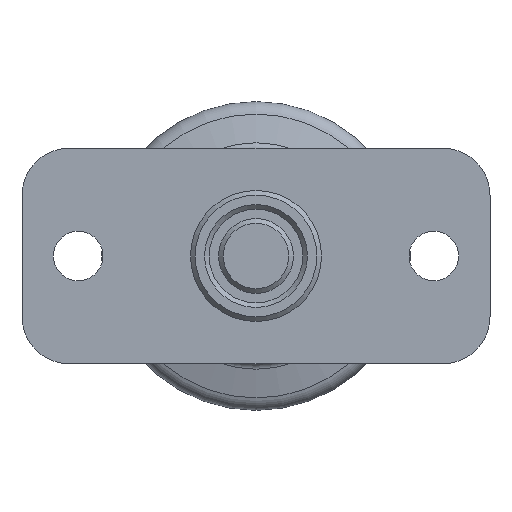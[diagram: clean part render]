
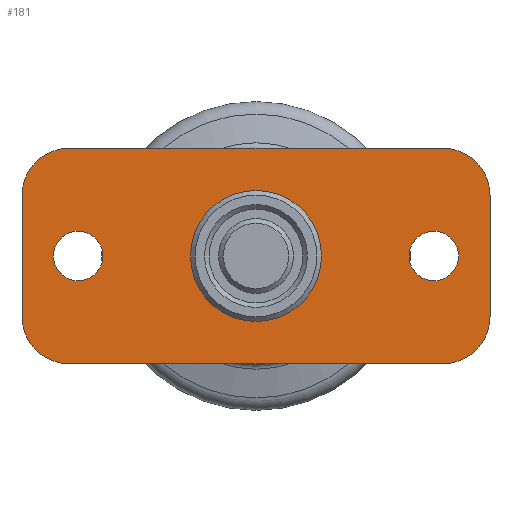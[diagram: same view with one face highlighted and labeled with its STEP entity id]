
A CAD part, front view. The second image highlights one B-rep face of the part: STEP entity #181.
In plain terms, the highlighted planar face has unit normal (0, -1, 0).
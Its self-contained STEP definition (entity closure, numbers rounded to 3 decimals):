
#181 = ADVANCED_FACE( '', ( #281, #282, #283, #284 ), #285, .F. );
#281 = FACE_BOUND( '', #481, .T. );
#282 = FACE_BOUND( '', #482, .T. );
#283 = FACE_BOUND( '', #483, .T. );
#284 = FACE_OUTER_BOUND( '', #484, .T. );
#285 = PLANE( '', #485 );
#481 = EDGE_LOOP( '', ( #737 ) );
#482 = EDGE_LOOP( '', ( #738 ) );
#483 = EDGE_LOOP( '', ( #739 ) );
#484 = EDGE_LOOP( '', ( #740, #741, #742, #743, #744, #745, #746, #747 ) );
#485 = AXIS2_PLACEMENT_3D( '', #748, #749, #750 );
#737 = ORIENTED_EDGE( '', *, *, #1252, .F. );
#738 = ORIENTED_EDGE( '', *, *, #1253, .F. );
#739 = ORIENTED_EDGE( '', *, *, #1254, .F. );
#740 = ORIENTED_EDGE( '', *, *, #1255, .F. );
#741 = ORIENTED_EDGE( '', *, *, #1256, .F. );
#742 = ORIENTED_EDGE( '', *, *, #1257, .F. );
#743 = ORIENTED_EDGE( '', *, *, #1258, .F. );
#744 = ORIENTED_EDGE( '', *, *, #1259, .F. );
#745 = ORIENTED_EDGE( '', *, *, #1260, .F. );
#746 = ORIENTED_EDGE( '', *, *, #1261, .F. );
#747 = ORIENTED_EDGE( '', *, *, #1262, .F. );
#748 = CARTESIAN_POINT( '', ( -20., 0., 6.5 ) );
#749 = DIRECTION( '', ( 0., 1., 0. ) );
#750 = DIRECTION( '', ( 0., 0., 1. ) );
#1252 = EDGE_CURVE( '', #1438, #1438, #1439, .T. );
#1253 = EDGE_CURVE( '', #1440, #1440, #1441, .T. );
#1254 = EDGE_CURVE( '', #1442, #1442, #1443, .T. );
#1255 = EDGE_CURVE( '', #1444, #1445, #1446, .T. );
#1256 = EDGE_CURVE( '', #1447, #1444, #1448, .T. );
#1257 = EDGE_CURVE( '', #1449, #1447, #1450, .T. );
#1258 = EDGE_CURVE( '', #1451, #1449, #1452, .T. );
#1259 = EDGE_CURVE( '', #1453, #1451, #1454, .T. );
#1260 = EDGE_CURVE( '', #1455, #1453, #1456, .T. );
#1261 = EDGE_CURVE( '', #1457, #1455, #1458, .T. );
#1262 = EDGE_CURVE( '', #1445, #1457, #1459, .T. );
#1438 = VERTEX_POINT( '', #1774 );
#1439 = CIRCLE( '', #1775, 2.65 );
#1440 = VERTEX_POINT( '', #1776 );
#1441 = CIRCLE( '', #1777, 2.65 );
#1442 = VERTEX_POINT( '', #1778 );
#1443 = CIRCLE( '', #1779, 7. );
#1444 = VERTEX_POINT( '', #1780 );
#1445 = VERTEX_POINT( '', #1781 );
#1446 = LINE( '', #1782, #1783 );
#1447 = VERTEX_POINT( '', #1784 );
#1448 = CIRCLE( '', #1785, 5. );
#1449 = VERTEX_POINT( '', #1786 );
#1450 = LINE( '', #1787, #1788 );
#1451 = VERTEX_POINT( '', #1789 );
#1452 = CIRCLE( '', #1790, 5. );
#1453 = VERTEX_POINT( '', #1791 );
#1454 = LINE( '', #1792, #1793 );
#1455 = VERTEX_POINT( '', #1794 );
#1456 = CIRCLE( '', #1795, 5. );
#1457 = VERTEX_POINT( '', #1796 );
#1458 = LINE( '', #1797, #1798 );
#1459 = CIRCLE( '', #1799, 5. );
#1774 = CARTESIAN_POINT( '', ( 19., 0., -2.65 ) );
#1775 = AXIS2_PLACEMENT_3D( '', #2224, #2225, #2226 );
#1776 = CARTESIAN_POINT( '', ( -19., 0., -2.65 ) );
#1777 = AXIS2_PLACEMENT_3D( '', #2227, #2228, #2229 );
#1778 = CARTESIAN_POINT( '', ( 0., 0., -7. ) );
#1779 = AXIS2_PLACEMENT_3D( '', #2230, #2231, #2232 );
#1780 = CARTESIAN_POINT( '', ( -25., 0., -6.5 ) );
#1781 = CARTESIAN_POINT( '', ( -25., 0., 6.5 ) );
#1782 = CARTESIAN_POINT( '', ( -25., 0., -6.5 ) );
#1783 = VECTOR( '', #2233, 1000. );
#1784 = CARTESIAN_POINT( '', ( -20., 0., -11.5 ) );
#1785 = AXIS2_PLACEMENT_3D( '', #2234, #2235, #2236 );
#1786 = CARTESIAN_POINT( '', ( 20., 0., -11.5 ) );
#1787 = CARTESIAN_POINT( '', ( 20., 0., -11.5 ) );
#1788 = VECTOR( '', #2237, 1000. );
#1789 = CARTESIAN_POINT( '', ( 25., 0., -6.5 ) );
#1790 = AXIS2_PLACEMENT_3D( '', #2238, #2239, #2240 );
#1791 = CARTESIAN_POINT( '', ( 25., 0., 6.5 ) );
#1792 = CARTESIAN_POINT( '', ( 25., 0., 6.5 ) );
#1793 = VECTOR( '', #2241, 1000. );
#1794 = CARTESIAN_POINT( '', ( 20., 0., 11.5 ) );
#1795 = AXIS2_PLACEMENT_3D( '', #2242, #2243, #2244 );
#1796 = CARTESIAN_POINT( '', ( -20., 0., 11.5 ) );
#1797 = CARTESIAN_POINT( '', ( -20., 0., 11.5 ) );
#1798 = VECTOR( '', #2245, 1000. );
#1799 = AXIS2_PLACEMENT_3D( '', #2246, #2247, #2248 );
#2224 = CARTESIAN_POINT( '', ( 19., 0., 0. ) );
#2225 = DIRECTION( '', ( 0., -1., 0. ) );
#2226 = DIRECTION( '', ( 0., 0., -1. ) );
#2227 = CARTESIAN_POINT( '', ( -19., 0., 0. ) );
#2228 = DIRECTION( '', ( 0., -1., 0. ) );
#2229 = DIRECTION( '', ( 0., 0., -1. ) );
#2230 = CARTESIAN_POINT( '', ( 0., 0., 0. ) );
#2231 = DIRECTION( '', ( 0., -1., 0. ) );
#2232 = DIRECTION( '', ( 0., 0., -1. ) );
#2233 = DIRECTION( '', ( 0., 0., 1. ) );
#2234 = CARTESIAN_POINT( '', ( -20., 0., -6.5 ) );
#2235 = DIRECTION( '', ( 0., 1., 0. ) );
#2236 = DIRECTION( '', ( 1., 0., 0. ) );
#2237 = DIRECTION( '', ( -1., 0., 0. ) );
#2238 = CARTESIAN_POINT( '', ( 20., 0., -6.5 ) );
#2239 = DIRECTION( '', ( 0., 1., 0. ) );
#2240 = DIRECTION( '', ( 1., 0., 0. ) );
#2241 = DIRECTION( '', ( 0., 0., -1. ) );
#2242 = CARTESIAN_POINT( '', ( 20., 0., 6.5 ) );
#2243 = DIRECTION( '', ( 0., 1., 0. ) );
#2244 = DIRECTION( '', ( 1., 0., 0. ) );
#2245 = DIRECTION( '', ( 1., 0., 0. ) );
#2246 = CARTESIAN_POINT( '', ( -20., 0., 6.5 ) );
#2247 = DIRECTION( '', ( 0., 1., 0. ) );
#2248 = DIRECTION( '', ( 1., 0., 0. ) );
